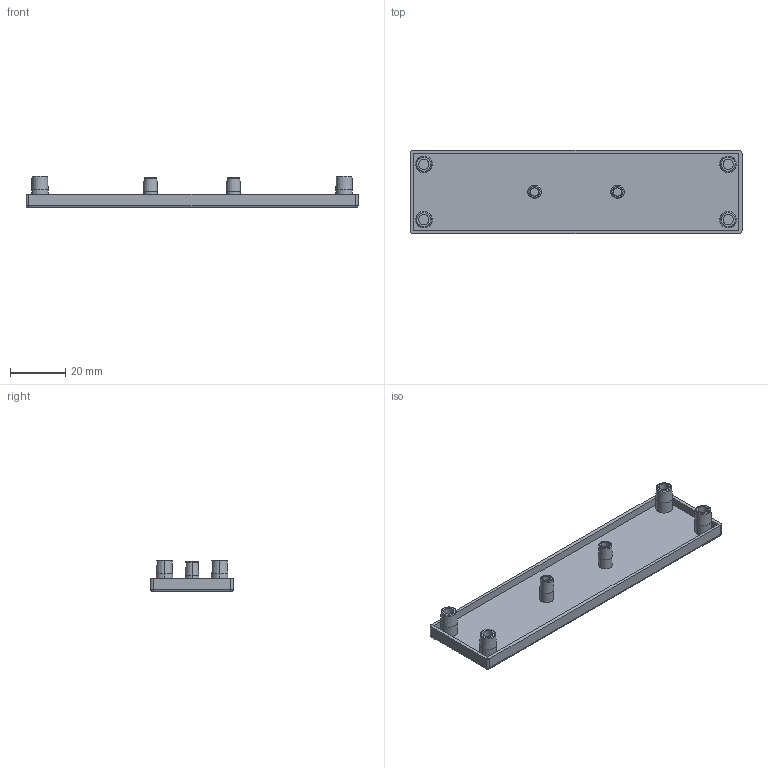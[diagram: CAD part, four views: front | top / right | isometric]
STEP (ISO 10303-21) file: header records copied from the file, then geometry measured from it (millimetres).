
FILE_DESCRIPTION (( 'STEP AP203' ), '1' );
FILE_NAME ('DEC30120.STEP', '2022-06-23T05:58:26', ( '' ), ( '' ), 'SwSTEP 2.0', 'SolidWorks 2017', '' );
FILE_SCHEMA (( 'CONFIG_CONTROL_DESIGN' ));
Length unit declared in the file: millimetre
Products named in the file (1): DEC30120
Bounding box: 120 x 30 x 11.5 mm (x, y, z)
Volume: 9032.9 mm3; surface area: 10991.9 mm2
Topology: 1 solids, 1 shells, 83 faces, 172 edges, 100 vertices
Faces by surface type: cylinder 32, plane 23, torus 12, cone 12, sphere 4
Entity records: 2251 total; most frequent: DIRECTION 436, CARTESIAN_POINT 352, ORIENTED_EDGE 336, AXIS2_PLACEMENT_3D 184, EDGE_CURVE 168, VERTEX_POINT 100, CIRCLE 100, EDGE_LOOP 96
